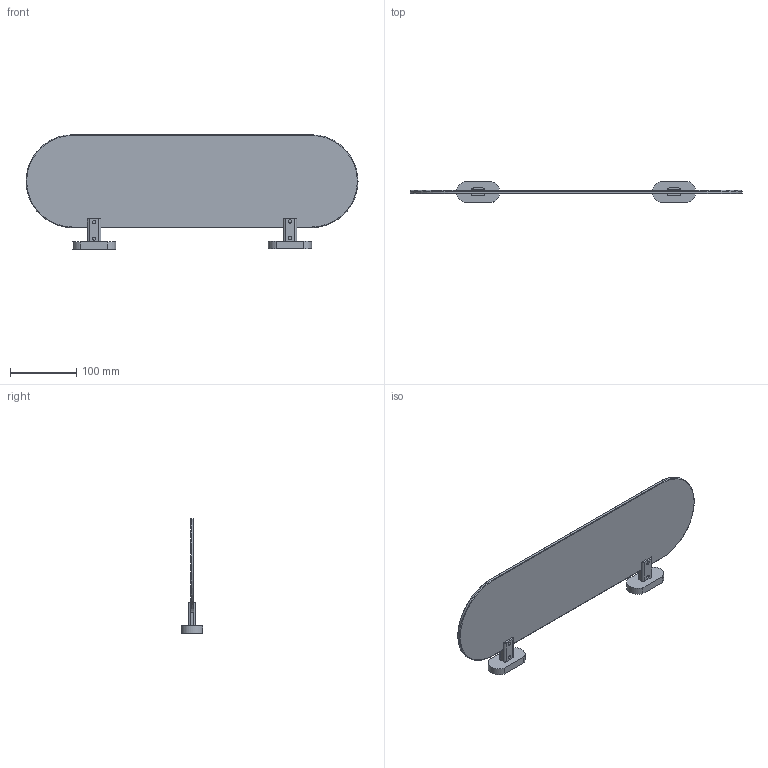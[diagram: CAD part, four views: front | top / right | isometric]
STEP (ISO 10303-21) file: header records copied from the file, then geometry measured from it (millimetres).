
FILE_DESCRIPTION (( 'STEP AP203' ), '1' );
FILE_NAME ('ma.PL18801.STEP', '2023-01-31T10:19:53', ( '' ), ( '' ), 'SwSTEP 2.0', 'SolidWorks 2021', '' );
FILE_SCHEMA (( 'CONFIG_CONTROL_DESIGN' ));
Length unit declared in the file: millimetre
Products named in the file (1): ma.PL18801
Bounding box: 500 x 32.02 x 172.47 mm (x, y, z)
Volume: 364397.6 mm3; surface area: 158459.2 mm2
Topology: 3 solids, 5 shells, 124 faces, 284 edges, 184 vertices
Faces by surface type: plane 66, cylinder 54, torus 4
Entity records: 3589 total; most frequent: DIRECTION 646, CARTESIAN_POINT 593, ORIENTED_EDGE 568, EDGE_CURVE 284, AXIS2_PLACEMENT_3D 237, VERTEX_POINT 184, VECTOR 172, LINE 172
